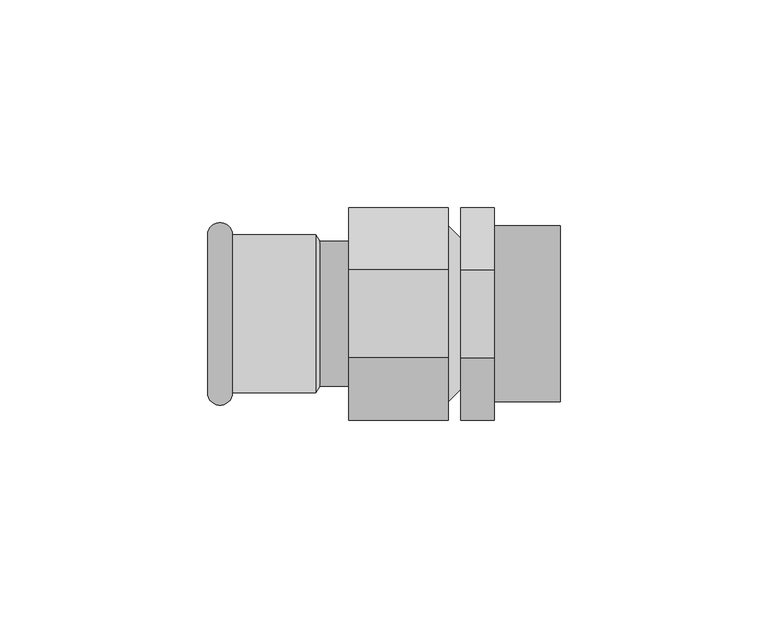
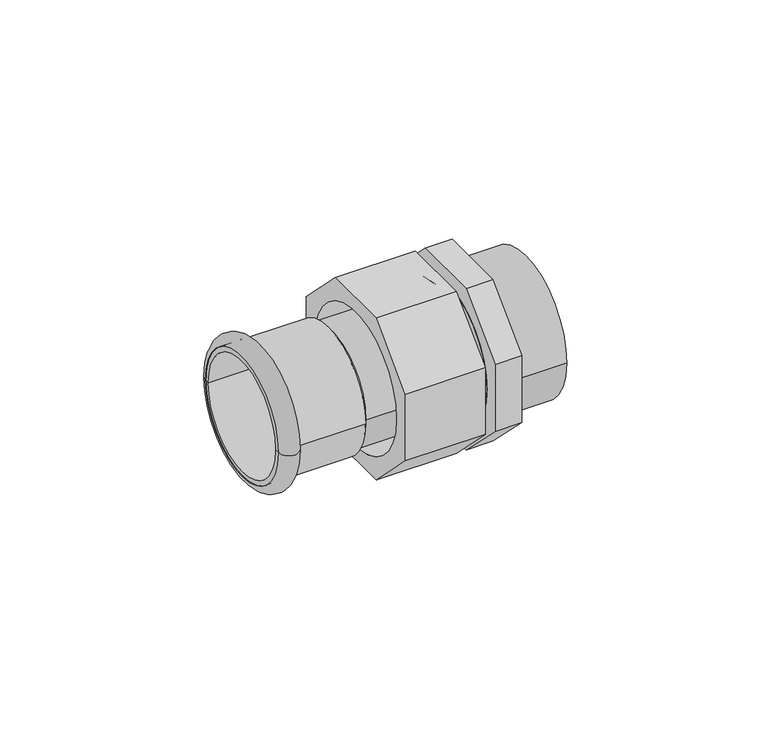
"""IFC4 building model written with IfcOpenShell, lengths in millimetres: pipe fitting geometry."""

from ifc_helpers import new_model, si_unit, point, frame, origin, origin_2d, place, context, project, spatial, polyline, circle_curve, ellipse_curve, trimmed, segment, composite_curve, outline, extrude, source, transform, mapped, element, save
from ifc_brep_helpers import plane_surface, cylinder_surface, revolved_surface, advanced_brep


def pipe_fitting_ae78dee2(model_context):
    return source(origin(), model_context, "Body", "SolidModel", [
        advanced_brep(
        [(-11.6666667, -25.5906638, 10.6), (-11.6666667, -10.6, 25.5906638), (-11.6666667, 10.6, 25.5906638), (-11.6666667, 25.5906638, 10.6), (-11.6666667, 25.5906638, -10.6), (-11.6666667, 10.6, -25.5906638), (-11.6666667, -10.6, -25.5906638), (-11.6666667, -25.5906638, -10.6), (-11.6666667, 21.2, 0.0), (-11.6666667, -21.2, 0.0), (12.3333333, -25.5906638, 10.6), (12.3333333, -25.5906638, -10.6), (12.3333333, -10.6, -25.5906638), (12.3333333, 10.6, -25.5906638), (12.3333333, 25.5906638, -10.6), (12.3333333, 25.5906638, 10.6), (12.3333333, 10.6, 25.5906638), (12.3333333, -10.6, 25.5906638), (12.3333333, 21.2288231, 0.0), (12.3333333, -21.2288231, 0.0), (12.3333333, 21.2, 0.0), (12.3333333, -21.2, 0.0), (12.3333333, 18.2288231, 0.0), (12.3333333, -18.2288231, 0.0), (15.3333333, 18.2288231, 0.0), (15.3333333, -18.2288231, 0.0)],
        [
            (0, 1),
            (1, 2),
            (2, 3),
            (3, 4),
            (4, 5),
            (5, 6),
            (6, 7),
            (7, 0),
            (8, 9, circle_curve(frame((-11.6666667, 0.0, 0.0), z_axis=(1.0, 0.0, 0.0), x_axis=(0.0, -1.0, 0.0)), 21.2)),
            (9, 8, circle_curve(frame((-11.6666667, 0.0, 0.0), z_axis=(1.0, 0.0, 0.0), x_axis=(0.0, -1.0, 0.0)), 21.2)),
            (10, 11),
            (11, 12),
            (12, 13),
            (13, 14),
            (14, 15),
            (15, 16),
            (16, 17),
            (17, 10),
            (18, 19, circle_curve(frame((12.3333333, 0.0, 0.0), z_axis=(-1.0, 0.0, 0.0), x_axis=(0.0, -1.0, 0.0)), 21.2288231)),
            (19, 18, circle_curve(frame((12.3333333, 0.0, 0.0), z_axis=(-1.0, 0.0, 0.0), x_axis=(0.0, 1.0, 0.0)), 21.2288231)),
            (8, 20),
            (20, 21, circle_curve(frame((12.3333333, 0.0, 0.0), z_axis=(1.0, 0.0, 0.0), x_axis=(0.0, -1.0, 0.0)), 21.2)),
            (21, 9),
            (21, 20, circle_curve(frame((12.3333333, 0.0, 0.0), z_axis=(1.0, 0.0, 0.0), x_axis=(0.0, -1.0, 0.0)), 21.2)),
            (0, 10),
            (17, 1),
            (16, 2),
            (15, 3),
            (14, 4),
            (13, 5),
            (12, 6),
            (11, 7),
            (22, 23, circle_curve(frame((12.3333333, 0.0, 0.0), z_axis=(1.0, 0.0, 0.0), x_axis=(0.0, 1.0, 0.0)), 18.2288231)),
            (23, 22, circle_curve(frame((12.3333333, 0.0, 0.0), z_axis=(1.0, 0.0, 0.0), x_axis=(0.0, -1.0, 0.0)), 18.2288231)),
            (24, 25, circle_curve(frame((15.3333333, 0.0, 0.0), z_axis=(-1.0, 0.0, 0.0), x_axis=(0.0, -1.0, 0.0)), 18.2288231)),
            (25, 19),
            (18, 24),
            (23, 25),
            (24, 22),
            (25, 24, circle_curve(frame((15.3333333, 0.0, 0.0), z_axis=(-1.0, 0.0, 0.0), x_axis=(0.0, 1.0, 0.0)), 18.2288231)),
        ],
        [
            plane_surface(frame((-11.6666667, -21.2, 0.0), z_axis=(-1.0, 0.0, 0.0), x_axis=(0.0, 0.0, -1.0))),
            plane_surface(frame((12.3333333, -21.2, 0.0), z_axis=(1.0, 0.0, 0.0), x_axis=(0.0, 0.0, 1.0))),
            revolved_surface(polyline([(12.3333333, -21.2, 0.0), (-11.6666667, -21.2, 0.0)]), (12.3333333, 0.0, 0.0), (1.0, 0.0, 0.0)),
            plane_surface(frame((-11.6666667, -25.5906638, 10.6), z_axis=(0.0, -0.7071067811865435, 0.7071067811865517), x_axis=(1.0, 0.0, 0.0))),
            plane_surface(frame((-11.6666667, -10.6, 25.5906638), z_axis=(0.0, 0.0, 1.0), x_axis=(1.0, 0.0, 0.0))),
            plane_surface(frame((-11.6666667, 10.6, 25.5906638), z_axis=(0.0, 0.7071067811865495, 0.7071067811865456), x_axis=(1.0, 0.0, 0.0))),
            plane_surface(frame((-11.6666667, 25.5906638, 10.6), z_axis=(0.0, 1.0, 0.0), x_axis=(1.0, 0.0, 0.0))),
            plane_surface(frame((-11.6666667, 25.5906638, -10.6), z_axis=(0.0, 0.7071067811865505, -0.7071067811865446), x_axis=(1.0, 0.0, 0.0))),
            plane_surface(frame((-11.6666667, 10.6, -25.5906638), z_axis=(0.0, 0.0, -1.0), x_axis=(1.0, 0.0, 0.0))),
            plane_surface(frame((-11.6666667, -10.6, -25.5906638), z_axis=(0.0, -0.7071067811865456, -0.7071067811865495), x_axis=(1.0, 0.0, 0.0))),
            plane_surface(frame((-11.6666667, -25.5906638, -10.6), z_axis=(0.0, -1.0, 0.0), x_axis=(1.0, 0.0, 0.0))),
            plane_surface(frame((12.3333333, 0.0, 0.0), z_axis=(-1.0, 0.0, 0.0), x_axis=(0.0, 1.0, 0.0))),
            revolved_surface(polyline([(12.3333333, -21.2288231, 0.0), (15.3333333, -18.2288231, 0.0)]), (12.3333333, 0.0, 0.0), (1.0, 0.0, 0.0)),
            revolved_surface(polyline([(15.3333333, -18.2288231, 0.0), (12.3333333, -18.2288231, 0.0)]), (12.3333333, 0.0, 0.0), (1.0, 0.0, 0.0)),
            revolved_surface(polyline([(12.3333333, 21.2288231, 0.0), (15.3333333, 18.2288231, 0.0)]), (12.3333333, 0.0, 0.0), (1.0, 0.0, 0.0)),
            revolved_surface(polyline([(15.3333333, 18.2288231, 0.0), (12.3333333, 18.2288231, 0.0)]), (12.3333333, 0.0, 0.0), (1.0, 0.0, 0.0)),
        ],
        [
            (0, [[1, 2, 3, 4, 5, 6, 7, 8], [9, 10]]),
            (1, [[11, 12, 13, 14, 15, 16, 17, 18], [19, 20]]),
            (2, [[-9, 21, 22, 23]]),
            (2, [[-10, -23, 24, -21]]),
            (3, [[-1, 25, -18, 26]]),
            (4, [[-2, -26, -17, 27]]),
            (5, [[-3, -27, -16, 28]]),
            (6, [[-4, -28, -15, 29]]),
            (7, [[-5, -29, -14, 30]]),
            (8, [[-6, -30, -13, 31]]),
            (9, [[-7, -31, -12, 32]]),
            (10, [[-8, -32, -11, -25]]),
            (11, [[-22, -24], [33, 34]]),
            (12, [[35, 36, -19, 37]]),
            (13, [[-34, 38, -35, 39]]),
            (14, [[-36, 40, -37, -20]]),
            (15, [[-33, -39, -40, -38]]),
        ],
    ),
        extrude(outline(composite_curve([segment(trimmed(circle_curve(origin_2d(), 21.2), [point((-21.2, 0.0))], [point((21.2, 0.0))], False, "CARTESIAN"), True, "CONTINUOUS"), segment(trimmed(circle_curve(origin_2d(), 21.2), [point((21.2, 0.0))], [point((-21.2, 0.0))], False, "CARTESIAN"), True, "CONTINUOUS")], self_intersect=False)), frame((15.3333333, 0.0, 0.0), z_axis=(1.0, 0.0, 0.0), x_axis=(0.0, 1.0, 0.0)), (0.0, 0.0, 1.0), 24.0),
        extrude(outline(polyline([(25.5906638, 10.6), (25.5906638, -10.6), (10.6, -25.5906638), (-10.6, -25.5906638), (-25.5906638, -10.6), (-25.5906638, 10.6), (-10.6, 25.5906638), (10.6, 25.5906638), (25.5906638, 10.6)]), holes=[composite_curve([segment(trimmed(circle_curve(origin_2d(), 21.2), [point((-21.2, 0.0))], [point((21.2, 0.0))], True, "CARTESIAN"), True, "CONTINUOUS"), segment(trimmed(circle_curve(origin_2d(), 21.2), [point((21.2, 0.0))], [point((-21.2, 0.0))], True, "CARTESIAN"), True, "CONTINUOUS")], self_intersect=False)]), frame((15.3333333, 0.0, 0.0), z_axis=(1.0, 0.0, 0.0), x_axis=(0.0, 1.0, 0.0)), (0.0, 0.0, 1.0), 8.0),
        advanced_brep(
        [(-45.6666667, 19.0, 0.0), (-45.6666667, -19.0, 0.0), (-39.665374, -19.0, 0.0), (-39.665374, 19.0, 0.0)],
        [
            (0, 1, circle_curve(frame((-45.6666667, 0.0, 0.0), z_axis=(-1.0, 0.0, 0.0), x_axis=(0.0, -1.0, 0.0)), 19.0)),
            (1, 2),
            (2, 3, circle_curve(frame((-39.665374, 0.0, 0.0), z_axis=(1.0, 0.0, 0.0), x_axis=(0.0, -1.0, 0.0)), 19.0)),
            (3, 0),
            (1, 0, circle_curve(frame((-45.6666667, 0.0, 0.0), z_axis=(-1.0, 0.0, 0.0), x_axis=(0.0, -1.0, 0.0)), 19.0)),
            (3, 2, circle_curve(frame((-39.665374, 0.0, 0.0), z_axis=(1.0, 0.0, 0.0), x_axis=(0.0, -1.0, 0.0)), 19.0)),
            (2, 1, circle_curve(frame((-42.6660203, -19.0, 0.0), z_axis=(0.0, 0.0, -1.0), x_axis=(-1.0, 0.0, 0.0)), 3.0006464)),
            (0, 3, circle_curve(frame((-42.6660203, 19.0, 0.0), z_axis=(0.0, 0.0, -1.0), x_axis=(-1.0, 0.0, 0.0)), 3.0006464)),
        ],
        [
            revolved_surface(polyline([(-39.665374, -19.0, 0.0), (-45.6666667, -19.0, 0.0)]), (-19.6666667, 0.0, 0.0), (1.0, 0.0, 0.0)),
            revolved_surface(trimmed(ellipse_curve(frame((-42.6660203, -19.0, 0.0), z_axis=(0.0, 0.0, 1.0), x_axis=(-1.0, 0.0, 0.0)), 3.0006464, 3.0006464), [point((-45.6666667, -19.0, 0.0))], [point((-39.665374, -19.0, 0.0))], True, "CARTESIAN"), (-19.6666667, 0.0, 0.0), (1.0, 0.0, 0.0)),
        ],
        [
            (0, [[1, 2, 3, 4]]),
            (0, [[5, -4, 6, -2]]),
            (1, [[-3, 7, -1, 8]]),
            (1, [[-6, -8, -5, -7]]),
        ],
    ),
        advanced_brep(
        [(-45.6666667, 17.5, 0.0), (-45.6666667, -17.5, 0.0), (-18.6666667, -17.5, 0.0), (-18.6666667, 17.5, 0.0), (-45.6666667, 19.0, 0.0), (-45.6666667, -19.0, 0.0), (-19.6666667, 19.0, 0.0), (-19.6666667, -19.0, 0.0)],
        [
            (0, 1, circle_curve(frame((-45.6666667, 0.0, 0.0), z_axis=(-1.0, 0.0, 0.0), x_axis=(0.0, -1.0, 0.0)), 17.5)),
            (1, 2),
            (2, 3, circle_curve(frame((-18.6666667, 0.0, 0.0), z_axis=(1.0, 0.0, 0.0), x_axis=(0.0, -1.0, 0.0)), 17.5)),
            (3, 0),
            (1, 0, circle_curve(frame((-45.6666667, 0.0, 0.0), z_axis=(-1.0, 0.0, 0.0), x_axis=(0.0, -1.0, 0.0)), 17.5)),
            (3, 2, circle_curve(frame((-18.6666667, 0.0, 0.0), z_axis=(1.0, 0.0, 0.0), x_axis=(0.0, -1.0, 0.0)), 17.5)),
            (4, 5, circle_curve(frame((-45.6666667, 0.0, 0.0), z_axis=(-1.0, 0.0, 0.0), x_axis=(0.0, -1.0, 0.0)), 19.0)),
            (5, 1),
            (0, 4),
            (5, 4, circle_curve(frame((-45.6666667, 0.0, 0.0), z_axis=(-1.0, 0.0, 0.0), x_axis=(0.0, -1.0, 0.0)), 19.0)),
            (6, 7, circle_curve(frame((-19.6666667, 0.0, 0.0), z_axis=(-1.0, 0.0, 0.0), x_axis=(0.0, -1.0, 0.0)), 19.0)),
            (7, 5),
            (4, 6),
            (7, 6, circle_curve(frame((-19.6666667, 0.0, 0.0), z_axis=(-1.0, 0.0, 0.0), x_axis=(0.0, -1.0, 0.0)), 19.0)),
            (2, 7),
            (6, 3),
        ],
        [
            revolved_surface(polyline([(-18.6666667, -17.5, 0.0), (-45.6666667, -17.5, 0.0)]), (-19.6666667, 0.0, 0.0), (1.0, 0.0, 0.0)),
            plane_surface(frame((-45.6666667, 0.0, 0.0), z_axis=(-1.0, 0.0, 0.0), x_axis=(0.0, -1.0, 0.0))),
            cylinder_surface(frame((-19.6666667, 0.0, 0.0), z_axis=(1.0, 0.0, 0.0), x_axis=(0.0, -1.0, 0.0)), 19.0),
            revolved_surface(polyline([(-19.6666667, -19.0, 0.0), (-18.6666667, -17.5, 0.0)]), (-19.6666667, 0.0, 0.0), (1.0, 0.0, 0.0)),
        ],
        [
            (0, [[1, 2, 3, 4]]),
            (0, [[5, -4, 6, -2]]),
            (1, [[7, 8, -1, 9]]),
            (1, [[10, -9, -5, -8]]),
            (2, [[11, 12, -7, 13]]),
            (2, [[14, -13, -10, -12]]),
            (3, [[-3, 15, -11, 16]]),
            (3, [[-6, -16, -14, -15]]),
        ],
    ),
        extrude(outline(composite_curve([segment(trimmed(circle_curve(origin_2d(), 17.5), [point((-17.5, 0.0))], [point((17.5, 0.0))], False, "CARTESIAN"), True, "CONTINUOUS"), segment(trimmed(circle_curve(origin_2d(), 17.5), [point((17.5, 0.0))], [point((-17.5, 0.0))], False, "CARTESIAN"), True, "CONTINUOUS")], self_intersect=False)), frame((-19.6666667, 0.0, 0.0), z_axis=(1.0, 0.0, 0.0), x_axis=(0.0, 1.0, 0.0)), (0.0, 0.0, 1.0), 59.0),
    ])


if __name__ == "__main__":
    model = new_model("IFC4")
    model_context = context("Model", 3, world=origin())
    ifc_project = project(units=[si_unit("LENGTHUNIT", "METRE", prefix="MILLI")], contexts=[model_context])
    site = spatial("IfcSite", under=ifc_project)
    building = spatial("IfcBuilding", under=site)
    placement = place(None, origin())
    pipe_fitting_shape = pipe_fitting_ae78dee2(model_context)
    element("IfcPipeFitting", 1, ObjectType="NLRS_50_PIF_UN_Geberit Mapress Therm 3-d overgangskoppeling met buitendraad_PRO_3208083 : DN12-50-R2\" / d15-54-R2\" - OD", at=placement, inside=building, context=model_context, shape_type="MappedRepresentation", body=[
        mapped(pipe_fitting_shape, transform((0.0, 0.0, 0.0), x_axis=(1.0, 0.0, 0.0), y_axis=(0.0, 1.0, 0.0), z_axis=(0.0, 0.0, 1.0))),
    ])
    save(model, "model.ifc")
